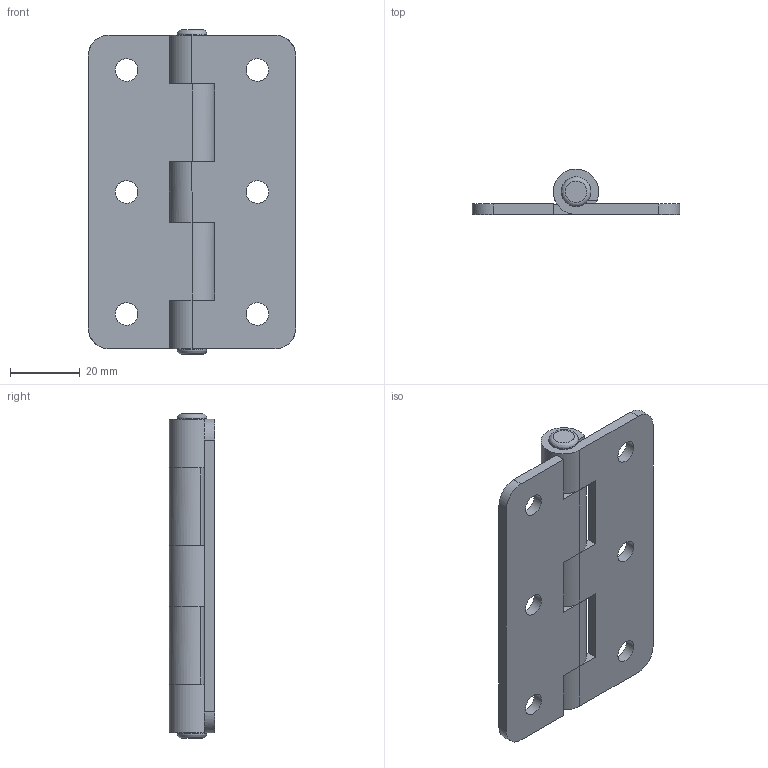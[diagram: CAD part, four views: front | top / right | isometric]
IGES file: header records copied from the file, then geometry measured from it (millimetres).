
Global section: file name: DR_HD9060-30; native system: Autodesk Inventor 2015; preprocessor: unknown; author: Administrator; date: 20170816.174917; units: millimetre
Bounding box: 59.5 x 13 x 93 mm (x, y, z)
Volume: 24320.8 mm3; surface area: 18716.2 mm2
Topology: 3 solids, 3 shells, 57 faces, 161 edges, 112 vertices
Faces by surface type: bspline 57
